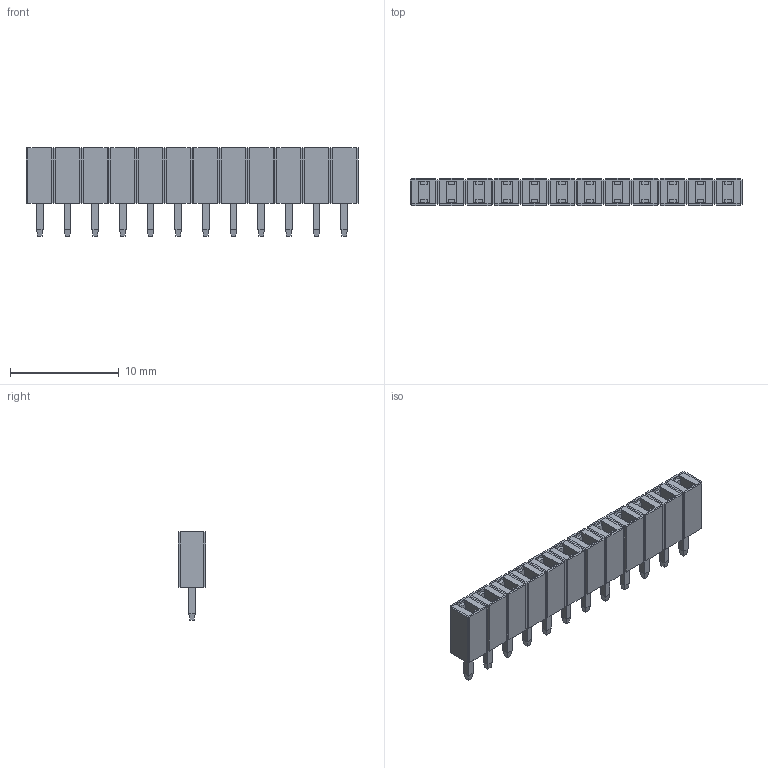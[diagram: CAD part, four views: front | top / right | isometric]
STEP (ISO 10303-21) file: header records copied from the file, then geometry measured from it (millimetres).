
FILE_DESCRIPTION(('FreeCAD Model'),'2;1');
FILE_NAME('Open CASCADE Shape Model','2021-08-03T16:29:13',('Author'),( ''),'Open CASCADE STEP processor 7.5','FreeCAD','Unknown');
FILE_SCHEMA(('AUTOMOTIVE_DESIGN { 1 0 10303 214 1 1 1 1 }'));
Length unit declared in the file: millimetre
Products named in the file (1): Group012
Bounding box: 30.48 x 2.54 x 8.1 mm (x, y, z)
Volume: 320.4 mm3; surface area: 951.1 mm2
Topology: 1 solids, 1 shells, 506 faces, 1156 edges, 676 vertices
Faces by surface type: plane 506
Entity records: 31050 total; most frequent: CARTESIAN_POINT 4987, DIRECTION 4146, LINE 3132, VECTOR 3132, ORIENTED_EDGE 2312, PCURVE 2312, DEFINITIONAL_REPRESENTATION 2312, EDGE_CURVE 1156
